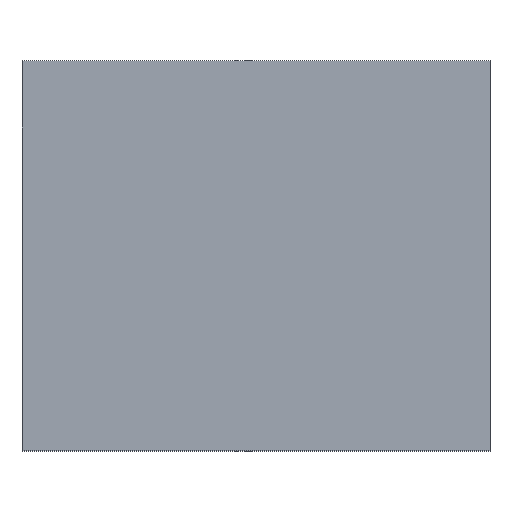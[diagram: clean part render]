
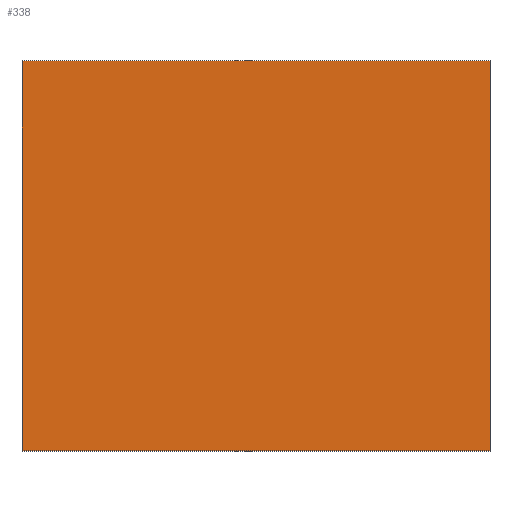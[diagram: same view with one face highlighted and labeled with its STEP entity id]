
A CAD part, top view. The second image highlights one B-rep face of the part: STEP entity #338.
In plain terms, the highlighted planar face has unit normal (0, 0, 1).
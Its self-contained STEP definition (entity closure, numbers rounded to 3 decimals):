
#24 = VERTEX_POINT('',#25);
#25 = CARTESIAN_POINT('',(0.,0.,5.));
#32 = PLANE('',#33);
#33 = AXIS2_PLACEMENT_3D('',#34,#35,#36);
#34 = CARTESIAN_POINT('',(0.,0.,0.));
#35 = DIRECTION('',(1.,0.,-0.));
#36 = DIRECTION('',(0.,0.,1.));
#44 = PLANE('',#45);
#45 = AXIS2_PLACEMENT_3D('',#46,#47,#48);
#46 = CARTESIAN_POINT('',(0.,0.,0.));
#47 = DIRECTION('',(-0.,1.,0.));
#48 = DIRECTION('',(0.,0.,1.));
#85 = VERTEX_POINT('',#86);
#86 = CARTESIAN_POINT('',(0.,10.,5.));
#100 = PLANE('',#101);
#101 = AXIS2_PLACEMENT_3D('',#102,#103,#104);
#102 = CARTESIAN_POINT('',(0.,10.,0.));
#103 = DIRECTION('',(-0.,1.,0.));
#104 = DIRECTION('',(0.,0.,1.));
#112 = EDGE_CURVE('',#24,#85,#113,.T.);
#113 = SURFACE_CURVE('',#114,(#118,#125),.PCURVE_S1.);
#114 = LINE('',#115,#116);
#115 = CARTESIAN_POINT('',(0.,0.,5.));
#116 = VECTOR('',#117,1.);
#117 = DIRECTION('',(-0.,1.,0.));
#118 = PCURVE('',#32,#119);
#119 = DEFINITIONAL_REPRESENTATION('',(#120),#124);
#120 = LINE('',#121,#122);
#121 = CARTESIAN_POINT('',(5.,0.));
#122 = VECTOR('',#123,1.);
#123 = DIRECTION('',(0.,-1.));
#124 = ( GEOMETRIC_REPRESENTATION_CONTEXT(2) 
PARAMETRIC_REPRESENTATION_CONTEXT() REPRESENTATION_CONTEXT('2D SPACE',''
  ) );
#125 = PCURVE('',#126,#131);
#126 = PLANE('',#127);
#127 = AXIS2_PLACEMENT_3D('',#128,#129,#130);
#128 = CARTESIAN_POINT('',(0.,0.,5.));
#129 = DIRECTION('',(0.,0.,1.));
#130 = DIRECTION('',(1.,0.,-0.));
#131 = DEFINITIONAL_REPRESENTATION('',(#132),#136);
#132 = LINE('',#133,#134);
#133 = CARTESIAN_POINT('',(0.,0.));
#134 = VECTOR('',#135,1.);
#135 = DIRECTION('',(0.,1.));
#136 = ( GEOMETRIC_REPRESENTATION_CONTEXT(2) 
PARAMETRIC_REPRESENTATION_CONTEXT() REPRESENTATION_CONTEXT('2D SPACE',''
  ) );
#144 = VERTEX_POINT('',#145);
#145 = CARTESIAN_POINT('',(12.,0.,5.));
#152 = PLANE('',#153);
#153 = AXIS2_PLACEMENT_3D('',#154,#155,#156);
#154 = CARTESIAN_POINT('',(12.,0.,0.));
#155 = DIRECTION('',(1.,0.,-0.));
#156 = DIRECTION('',(0.,0.,1.));
#195 = VERTEX_POINT('',#196);
#196 = CARTESIAN_POINT('',(12.,10.,5.));
#217 = EDGE_CURVE('',#144,#195,#218,.T.);
#218 = SURFACE_CURVE('',#219,(#223,#230),.PCURVE_S1.);
#219 = LINE('',#220,#221);
#220 = CARTESIAN_POINT('',(12.,0.,5.));
#221 = VECTOR('',#222,1.);
#222 = DIRECTION('',(-0.,1.,0.));
#223 = PCURVE('',#152,#224);
#224 = DEFINITIONAL_REPRESENTATION('',(#225),#229);
#225 = LINE('',#226,#227);
#226 = CARTESIAN_POINT('',(5.,0.));
#227 = VECTOR('',#228,1.);
#228 = DIRECTION('',(0.,-1.));
#229 = ( GEOMETRIC_REPRESENTATION_CONTEXT(2) 
PARAMETRIC_REPRESENTATION_CONTEXT() REPRESENTATION_CONTEXT('2D SPACE',''
  ) );
#230 = PCURVE('',#126,#231);
#231 = DEFINITIONAL_REPRESENTATION('',(#232),#236);
#232 = LINE('',#233,#234);
#233 = CARTESIAN_POINT('',(12.,0.));
#234 = VECTOR('',#235,1.);
#235 = DIRECTION('',(0.,1.));
#236 = ( GEOMETRIC_REPRESENTATION_CONTEXT(2) 
PARAMETRIC_REPRESENTATION_CONTEXT() REPRESENTATION_CONTEXT('2D SPACE',''
  ) );
#263 = EDGE_CURVE('',#24,#144,#264,.T.);
#264 = SURFACE_CURVE('',#265,(#269,#276),.PCURVE_S1.);
#265 = LINE('',#266,#267);
#266 = CARTESIAN_POINT('',(0.,0.,5.));
#267 = VECTOR('',#268,1.);
#268 = DIRECTION('',(1.,0.,-0.));
#269 = PCURVE('',#44,#270);
#270 = DEFINITIONAL_REPRESENTATION('',(#271),#275);
#271 = LINE('',#272,#273);
#272 = CARTESIAN_POINT('',(5.,0.));
#273 = VECTOR('',#274,1.);
#274 = DIRECTION('',(0.,1.));
#275 = ( GEOMETRIC_REPRESENTATION_CONTEXT(2) 
PARAMETRIC_REPRESENTATION_CONTEXT() REPRESENTATION_CONTEXT('2D SPACE',''
  ) );
#276 = PCURVE('',#126,#277);
#277 = DEFINITIONAL_REPRESENTATION('',(#278),#282);
#278 = LINE('',#279,#280);
#279 = CARTESIAN_POINT('',(0.,0.));
#280 = VECTOR('',#281,1.);
#281 = DIRECTION('',(1.,0.));
#282 = ( GEOMETRIC_REPRESENTATION_CONTEXT(2) 
PARAMETRIC_REPRESENTATION_CONTEXT() REPRESENTATION_CONTEXT('2D SPACE',''
  ) );
#310 = EDGE_CURVE('',#85,#195,#311,.T.);
#311 = SURFACE_CURVE('',#312,(#316,#323),.PCURVE_S1.);
#312 = LINE('',#313,#314);
#313 = CARTESIAN_POINT('',(0.,10.,5.));
#314 = VECTOR('',#315,1.);
#315 = DIRECTION('',(1.,0.,-0.));
#316 = PCURVE('',#100,#317);
#317 = DEFINITIONAL_REPRESENTATION('',(#318),#322);
#318 = LINE('',#319,#320);
#319 = CARTESIAN_POINT('',(5.,0.));
#320 = VECTOR('',#321,1.);
#321 = DIRECTION('',(0.,1.));
#322 = ( GEOMETRIC_REPRESENTATION_CONTEXT(2) 
PARAMETRIC_REPRESENTATION_CONTEXT() REPRESENTATION_CONTEXT('2D SPACE',''
  ) );
#323 = PCURVE('',#126,#324);
#324 = DEFINITIONAL_REPRESENTATION('',(#325),#329);
#325 = LINE('',#326,#327);
#326 = CARTESIAN_POINT('',(0.,10.));
#327 = VECTOR('',#328,1.);
#328 = DIRECTION('',(1.,0.));
#329 = ( GEOMETRIC_REPRESENTATION_CONTEXT(2) 
PARAMETRIC_REPRESENTATION_CONTEXT() REPRESENTATION_CONTEXT('2D SPACE',''
  ) );
#338 = ADVANCED_FACE('',(#339),#126,.T.);
#339 = FACE_BOUND('',#340,.T.);
#340 = EDGE_LOOP('',(#341,#342,#343,#344));
#341 = ORIENTED_EDGE('',*,*,#112,.F.);
#342 = ORIENTED_EDGE('',*,*,#263,.T.);
#343 = ORIENTED_EDGE('',*,*,#217,.T.);
#344 = ORIENTED_EDGE('',*,*,#310,.F.);
